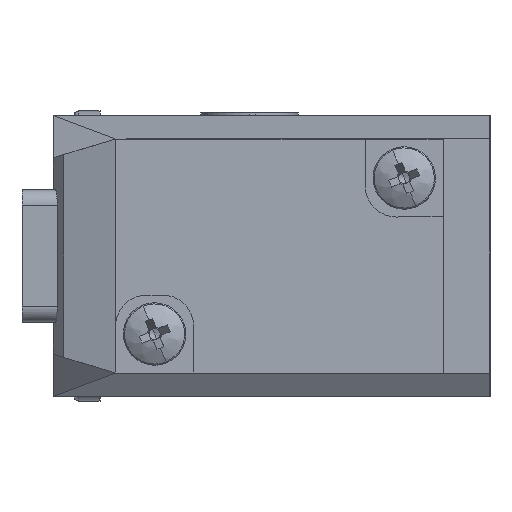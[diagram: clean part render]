
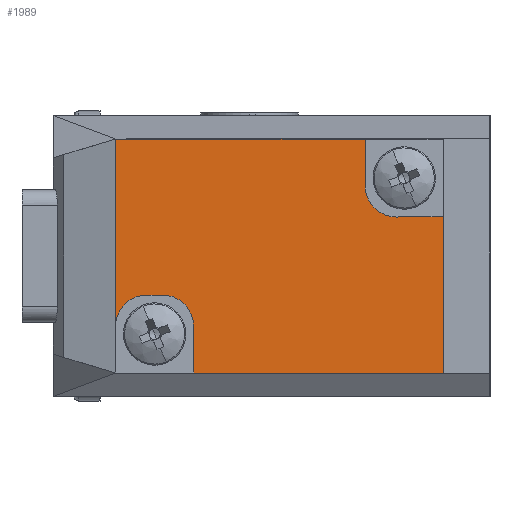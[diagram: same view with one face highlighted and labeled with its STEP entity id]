
A CAD part, left-side view. The second image highlights one B-rep face of the part: STEP entity #1989.
In plain terms, the highlighted planar face has unit normal (-1, 0, 0) as drawn and (1, 0, 0) by its records, which use the part's own axes.
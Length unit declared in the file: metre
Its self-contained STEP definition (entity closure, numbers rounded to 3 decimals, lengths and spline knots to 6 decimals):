
#100 = AXIS2_PLACEMENT_3D ( 'NONE', #3520, #3508, #3573 ) ;
#184 = VECTOR ( 'NONE', #3012, 1. ) ;
#374 = CARTESIAN_POINT ( 'NONE',  ( 0.01825, -0.0075, -0.0045 ) ) ;
#381 = ORIENTED_EDGE ( 'NONE', *, *, #9767, .F. ) ;
#530 = CARTESIAN_POINT ( 'NONE',  ( 0.01825, 0.0085, 0.0045 ) ) ;
#559 = CARTESIAN_POINT ( 'NONE',  ( 0.01825, 0.0085, 0. ) ) ;
#696 = DIRECTION ( 'NONE',  ( 0., 0., -1. ) ) ;
#825 = EDGE_LOOP ( 'NONE', ( #4696, #5041, #4569, #4548, #4425, #5554, #6033, #1265, #381, #7841, #997 ) ) ;
#900 = LINE ( 'NONE', #1286, #4930 ) ;
#997 = ORIENTED_EDGE ( 'NONE', *, *, #1383, .T. ) ;
#1215 = CARTESIAN_POINT ( 'NONE',  ( 0.01825, -0.0125, 0. ) ) ;
#1265 = ORIENTED_EDGE ( 'NONE', *, *, #8718, .F. ) ;
#1280 = DIRECTION ( 'NONE',  ( 0., -1., 0. ) ) ;
#1286 = CARTESIAN_POINT ( 'NONE',  ( 0.01825, -0.002, -0.0075 ) ) ;
#1366 = VERTEX_POINT ( 'NONE', #1452 ) ;
#1383 = EDGE_CURVE ( 'NONE', #8337, #3917, #9952, .T. ) ;
#1452 = CARTESIAN_POINT ( 'NONE',  ( 0.01825, 0.0085, -0.0075 ) ) ;
#1476 = DIRECTION ( 'NONE',  ( 0., 0., -1. ) ) ;
#1496 = CIRCLE ( 'NONE', #2259, 0.002 ) ;
#1785 = CARTESIAN_POINT ( 'NONE',  ( 0.01825, -0.0075, -0.0075 ) ) ;
#1880 = LINE ( 'NONE', #2918, #9604 ) ;
#1883 = EDGE_CURVE ( 'NONE', #2986, #8337, #6274, .T. ) ;
#1989 = ADVANCED_FACE ( 'NONE', ( #9454 ), #3568, .F. ) ;
#2111 = CARTESIAN_POINT ( 'NONE',  ( 0.01825, 0.0035, 0.0075 ) ) ;
#2259 = AXIS2_PLACEMENT_3D ( 'NONE', #9526, #9607, #9694 ) ;
#2269 = CARTESIAN_POINT ( 'NONE',  ( 0.01825, 0.0055, 0.0025 ) ) ;
#2423 = AXIS2_PLACEMENT_3D ( 'NONE', #5380, #5413, #5447 ) ;
#2481 = EDGE_CURVE ( 'NONE', #7033, #7650, #1496, .T. ) ;
#2630 = CIRCLE ( 'NONE', #3091, 0.002 ) ;
#2726 = CARTESIAN_POINT ( 'NONE',  ( 0.01825, -0.002, 0.0075 ) ) ;
#2807 = VECTOR ( 'NONE', #8968, 1. ) ;
#2809 = VERTEX_POINT ( 'NONE', #374 ) ;
#2877 = EDGE_CURVE ( 'NONE', #1366, #7720, #900, .T. ) ;
#2897 = CARTESIAN_POINT ( 'NONE',  ( 0.01825, 0.0035, 0.0045 ) ) ;
#2918 = CARTESIAN_POINT ( 'NONE',  ( 0.01825, 0.0035, 0. ) ) ;
#2986 = VERTEX_POINT ( 'NONE', #2111 ) ;
#3012 = DIRECTION ( 'NONE',  ( 0., -1., 0. ) ) ;
#3091 = AXIS2_PLACEMENT_3D ( 'NONE', #9384, #3935, #8600 ) ;
#3168 = CIRCLE ( 'NONE', #2423, 0.002 ) ;
#3332 = LINE ( 'NONE', #3471, #5409 ) ;
#3451 = DIRECTION ( 'NONE',  ( 0., 0., -1. ) ) ;
#3471 = CARTESIAN_POINT ( 'NONE',  ( 0.01825, -0.0075, -0.006 ) ) ;
#3508 = DIRECTION ( 'NONE',  ( -1., 0., 0. ) ) ;
#3520 = CARTESIAN_POINT ( 'NONE',  ( 0.01825, -0.0125, -0.0075 ) ) ;
#3568 = PLANE ( 'NONE',  #100 ) ;
#3573 = DIRECTION ( 'NONE',  ( 0., 0., 1. ) ) ;
#3848 = CARTESIAN_POINT ( 'NONE',  ( 0.01825, -0.0125, -0.0025 ) ) ;
#3889 = EDGE_CURVE ( 'NONE', #2809, #7720, #3332, .T. ) ;
#3917 = VERTEX_POINT ( 'NONE', #3848 ) ;
#3935 = DIRECTION ( 'NONE',  ( 1., 0., 0. ) ) ;
#4019 = EDGE_CURVE ( 'NONE', #9287, #7033, #4417, .T. ) ;
#4417 = LINE ( 'NONE', #6568, #6232 ) ;
#4425 = ORIENTED_EDGE ( 'NONE', *, *, #9636, .F. ) ;
#4548 = ORIENTED_EDGE ( 'NONE', *, *, #2877, .F. ) ;
#4569 = ORIENTED_EDGE ( 'NONE', *, *, #3889, .T. ) ;
#4696 = ORIENTED_EDGE ( 'NONE', *, *, #5965, .T. ) ;
#4930 = VECTOR ( 'NONE', #1280, 1. ) ;
#4940 = EDGE_CURVE ( 'NONE', #2809, #7426, #2630, .T. ) ;
#5041 = ORIENTED_EDGE ( 'NONE', *, *, #4940, .F. ) ;
#5380 = CARTESIAN_POINT ( 'NONE',  ( 0.01825, 0.0055, 0.0045 ) ) ;
#5409 = VECTOR ( 'NONE', #3451, 1. ) ;
#5413 = DIRECTION ( 'NONE',  ( 1., 0., 0. ) ) ;
#5447 = DIRECTION ( 'NONE',  ( 0., 0., 1. ) ) ;
#5554 = ORIENTED_EDGE ( 'NONE', *, *, #2481, .F. ) ;
#5965 = EDGE_CURVE ( 'NONE', #3917, #7426, #9536, .T. ) ;
#6033 = ORIENTED_EDGE ( 'NONE', *, *, #4019, .F. ) ;
#6161 = CARTESIAN_POINT ( 'NONE',  ( 0.01825, 0.0065, 0.0025 ) ) ;
#6232 = VECTOR ( 'NONE', #6534, 1. ) ;
#6274 = LINE ( 'NONE', #2726, #184 ) ;
#6395 = DIRECTION ( 'NONE',  ( 0., 1., 0. ) ) ;
#6452 = CARTESIAN_POINT ( 'NONE',  ( 0.01825, -0.011, -0.0025 ) ) ;
#6534 = DIRECTION ( 'NONE',  ( 0., 1., 0. ) ) ;
#6568 = CARTESIAN_POINT ( 'NONE',  ( 0.01825, -0.002, 0.0025 ) ) ;
#6662 = CARTESIAN_POINT ( 'NONE',  ( 0.01825, -0.0095, -0.0025 ) ) ;
#6672 = LINE ( 'NONE', #559, #2807 ) ;
#7033 = VERTEX_POINT ( 'NONE', #6161 ) ;
#7197 = VECTOR ( 'NONE', #6395, 1. ) ;
#7426 = VERTEX_POINT ( 'NONE', #6662 ) ;
#7619 = VECTOR ( 'NONE', #1476, 1. ) ;
#7650 = VERTEX_POINT ( 'NONE', #530 ) ;
#7720 = VERTEX_POINT ( 'NONE', #1785 ) ;
#7841 = ORIENTED_EDGE ( 'NONE', *, *, #1883, .T. ) ;
#8337 = VERTEX_POINT ( 'NONE', #9108 ) ;
#8600 = DIRECTION ( 'NONE',  ( 0., 0., 1. ) ) ;
#8718 = EDGE_CURVE ( 'NONE', #9190, #9287, #3168, .T. ) ;
#8968 = DIRECTION ( 'NONE',  ( 0., 0., -1. ) ) ;
#9108 = CARTESIAN_POINT ( 'NONE',  ( 0.01825, -0.0125, 0.0075 ) ) ;
#9190 = VERTEX_POINT ( 'NONE', #2897 ) ;
#9287 = VERTEX_POINT ( 'NONE', #2269 ) ;
#9384 = CARTESIAN_POINT ( 'NONE',  ( 0.01825, -0.0095, -0.0045 ) ) ;
#9454 = FACE_OUTER_BOUND ( 'NONE', #825, .T. ) ;
#9526 = CARTESIAN_POINT ( 'NONE',  ( 0.01825, 0.0065, 0.0045 ) ) ;
#9536 = LINE ( 'NONE', #6452, #7197 ) ;
#9604 = VECTOR ( 'NONE', #696, 1. ) ;
#9607 = DIRECTION ( 'NONE',  ( 1., 0., 0. ) ) ;
#9636 = EDGE_CURVE ( 'NONE', #7650, #1366, #6672, .T. ) ;
#9694 = DIRECTION ( 'NONE',  ( 0., 0., 1. ) ) ;
#9767 = EDGE_CURVE ( 'NONE', #2986, #9190, #1880, .T. ) ;
#9952 = LINE ( 'NONE', #1215, #7619 ) ;
